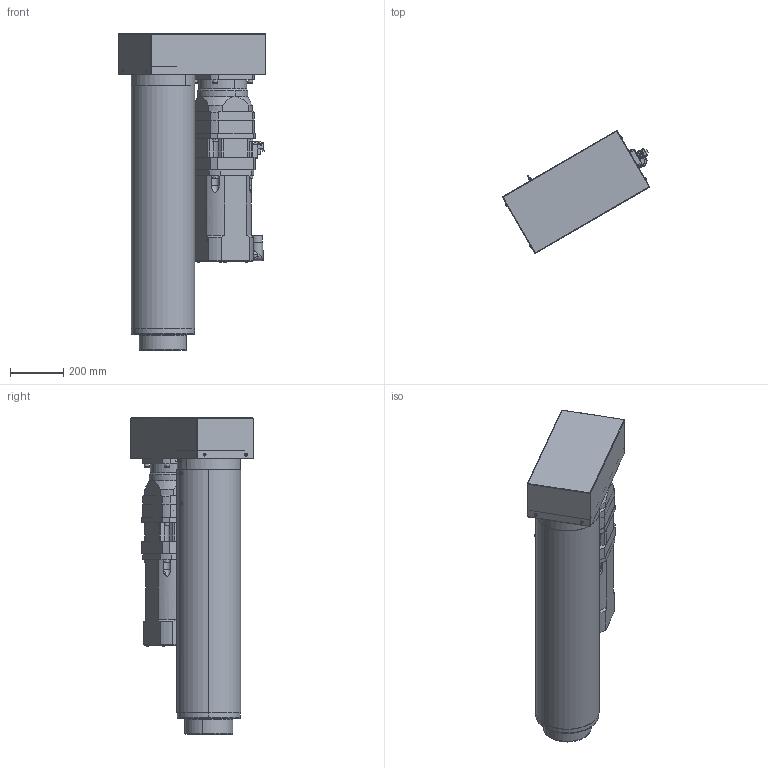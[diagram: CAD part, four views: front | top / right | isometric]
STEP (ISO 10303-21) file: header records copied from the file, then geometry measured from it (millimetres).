
FILE_DESCRIPTION (( 'STEP AP214' ), '1' );
FILE_NAME ('RLWPK200D-055-010SG0.STEP', '2023-04-06T06:36:31', ( '' ), ( '' ), 'SwSTEP 2.0', 'SolidWorks 2021', '' );
FILE_SCHEMA (( 'AUTOMOTIVE_DESIGN' ));
Length unit declared in the file: millimetre
Products named in the file (1): RLWPK200D-055-010SG0
Bounding box: 555.1 x 462.49 x 1192 mm (x, y, z)
Surface area: 4330778.2 mm2 (no closed solid volume)
Topology: 0 solids, 44 shells, 1710 faces, 4075 edges, 2482 vertices
Faces by surface type: plane 686, cylinder 680, cone 256, torus 78, bspline 10
Entity records: 69479 total; most frequent: CARTESIAN_POINT 10355, DIRECTION 8848, ORIENTED_EDGE 7814, EDGE_CURVE 3913, AXIS2_PLACEMENT_3D 3394, VERTEX_POINT 2482, LINE 2060, VECTOR 2060
